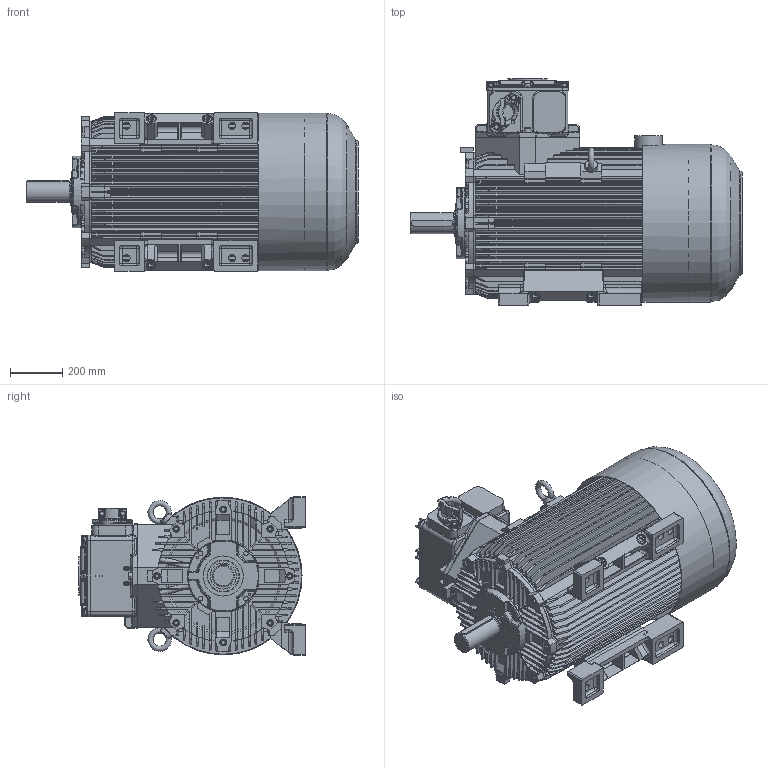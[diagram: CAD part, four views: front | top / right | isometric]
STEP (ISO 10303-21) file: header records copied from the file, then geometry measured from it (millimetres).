
FILE_DESCRIPTION(/* description */ ('Unknown'),/* implementation_level */ '2;1');
FILE_NAME(/* name */ 'EcSTe(b)315S(4,6,8), M(6,8)A-N-IE(2,3)',/* time_stamp */ '2022-04-19T14:20:43+02:00',/* author */ ('Unknown'),/* organization */ ('Unknown'),/* preprocessor_version */ 'ST-DEVELOPER v16.7',/* originating_system */ 'DEX',/* authorisation */ $);
FILE_SCHEMA (('AUTOMOTIVE_DESIGN {1 0 10303 214 3 1 1}'));
Length unit declared in the file: millimetre
Products named in the file (1): EcSTe(b)315S(4,6,8), M(6,8)A-N-IE(2,3)
Bounding box: 1274.5 x 870 x 610 mm (x, y, z)
Volume: 275274695.3 mm3; surface area: 7646769.6 mm2
Topology: 1 solids, 64 shells, 3826 faces, 9799 edges, 6112 vertices
Faces by surface type: plane 1630, cylinder 1173, cone 389, torus 327, bspline 214, sphere 93
Full cylindrical faces by diameter (mm): 2.459 x4, 3 x4, 3.2 x2, 6 x2, 6.3 x1, 8.16 x8, 8.376 x16, 8.917 x2, 10 x10, 11 x6, 12 x2, 13.546 x4, 13.835 x8, 14.63 x8, 16 x16, 17.5 x12, 18 x8, 20.319 x4, 20.752 x4, 24 x20, 26 x12, 28 x6, 36 x4, 40 x4, 50 x2, 62 x1, 67 x1, 80 x1, 81.5 x1, 82 x1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
Entity records: 147195 total; most frequent: CARTESIAN_POINT 30775, DIRECTION 18777, ORIENTED_EDGE 18502, EDGE_CURVE 9251, AXIS2_PLACEMENT_3D 7141, VERTEX_POINT 5964, LINE 4495, VECTOR 4495
